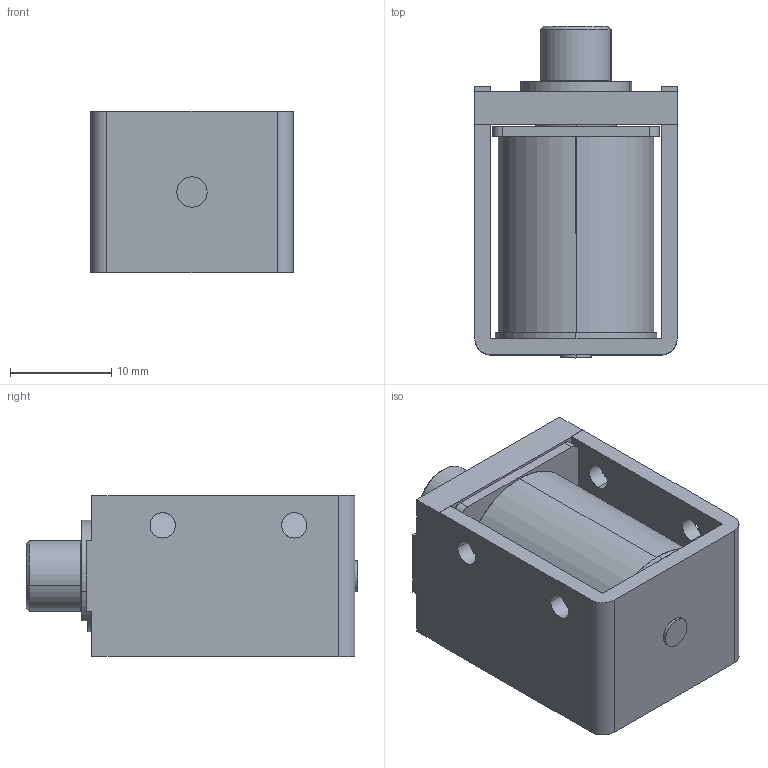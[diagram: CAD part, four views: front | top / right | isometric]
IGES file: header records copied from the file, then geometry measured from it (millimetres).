
Start section: SolidWorks IGES file using analytic representation for surfaces
Global section: file name: L:\カタログ\web用3Dデータ\CA0726\3D_CA0726\w_ca0726.IGS; native system: SolidWorks 2014; preprocessor: SolidWorks 2014; author: jiba; date: 140711.120506; units: millimetre
Bounding box: 20 x 32.8 x 16 mm (x, y, z)
Surface area: 5638.4 mm2 (no closed solid volume)
Topology: 0 solids, 0 shells, 117 faces, 1772 edges, 1769 vertices
Faces by surface type: revolution 63, bspline 54
